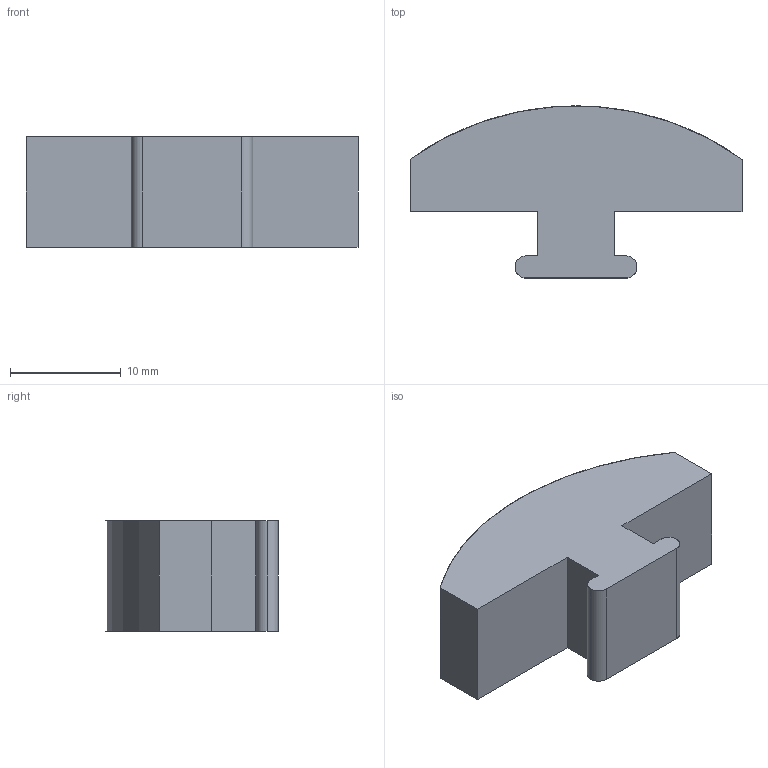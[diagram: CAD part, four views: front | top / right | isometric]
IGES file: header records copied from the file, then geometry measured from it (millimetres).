
Start section: SolidWorks IGES file using analytic representation for surfaces
Global section: file name: C:\Documents and Settings\URETIM3\Desktop\yeni katalog tolgay düzenli\E kataloðu\T100 PROFÝL ALPOLEN 1000\206 OT1 003.IGS; native system: SolidWorks 2006 by SolidWorks Corporation; preprocessor: SolidWorks 2006 by SolidWorks Corporation; author: URETIM3; date: 060912.161901; units: millimetre
Bounding box: 30 x 15.56 x 10 mm (x, y, z)
Surface area: 1477 mm2 (no closed solid volume)
Topology: 0 solids, 0 shells, 15 faces, 150 edges, 150 vertices
Faces by surface type: bspline 11, revolution 4
